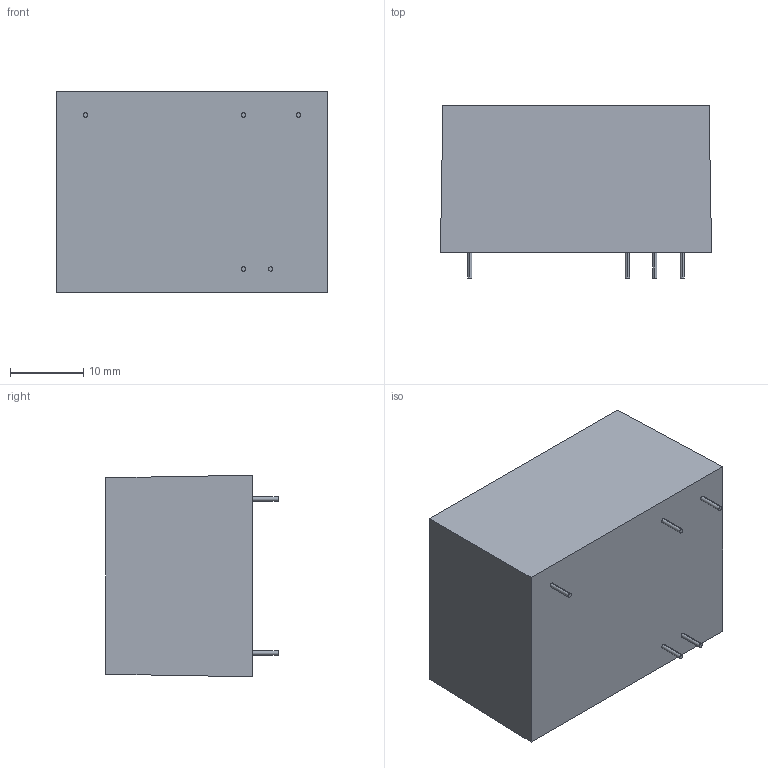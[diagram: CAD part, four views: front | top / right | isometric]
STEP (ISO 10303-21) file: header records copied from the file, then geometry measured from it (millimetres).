
FILE_DESCRIPTION (( 'STEP AP203' ), '1' );
FILE_NAME ('AOCH10.STEP', '2019-04-11T09:36:42', ( '' ), ( '' ), 'SwSTEP 2.0', 'SolidWorks 2016', '' );
FILE_SCHEMA (( 'CONFIG_CONTROL_DESIGN' ));
Length unit declared in the file: millimetre
Products named in the file (1): AOCH10
Bounding box: 37 x 23.5 x 27.5 mm (x, y, z)
Volume: 19666.3 mm3; surface area: 4609.9 mm2
Topology: 1 solids, 1 shells, 30 faces, 66 edges, 44 vertices
Faces by surface type: plane 16, cylinder 14
Entity records: 915 total; most frequent: DIRECTION 156, CARTESIAN_POINT 141, ORIENTED_EDGE 132, EDGE_CURVE 66, AXIS2_PLACEMENT_3D 59, VERTEX_POINT 44, LINE 38, VECTOR 38
